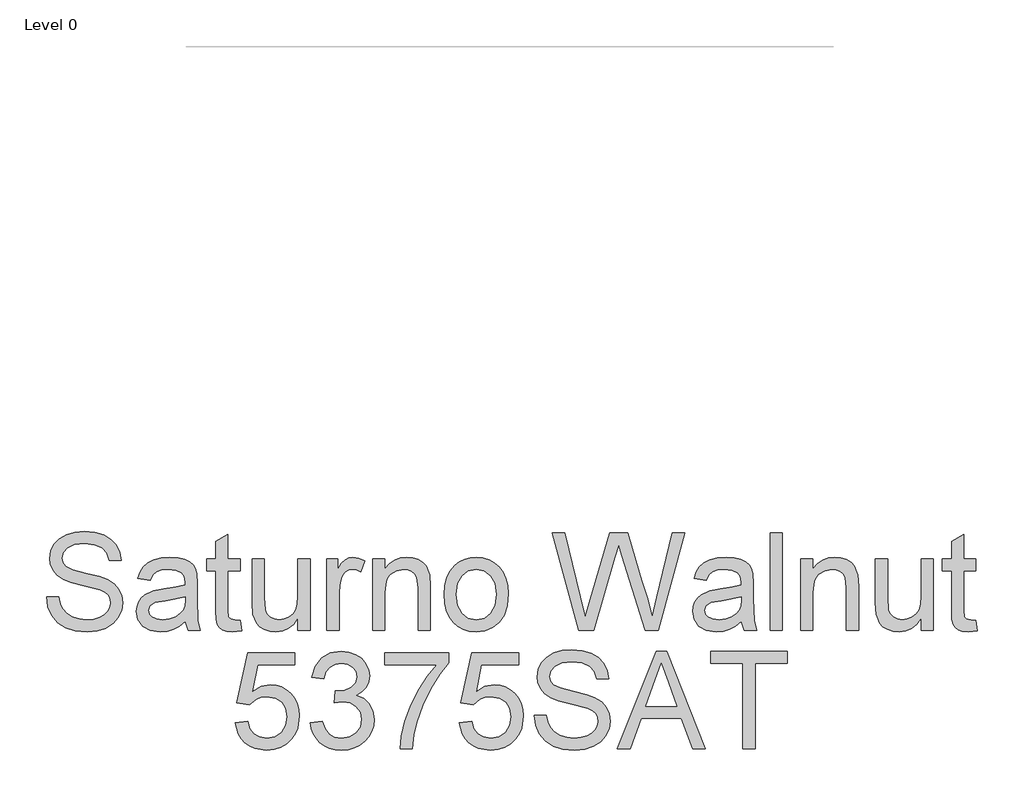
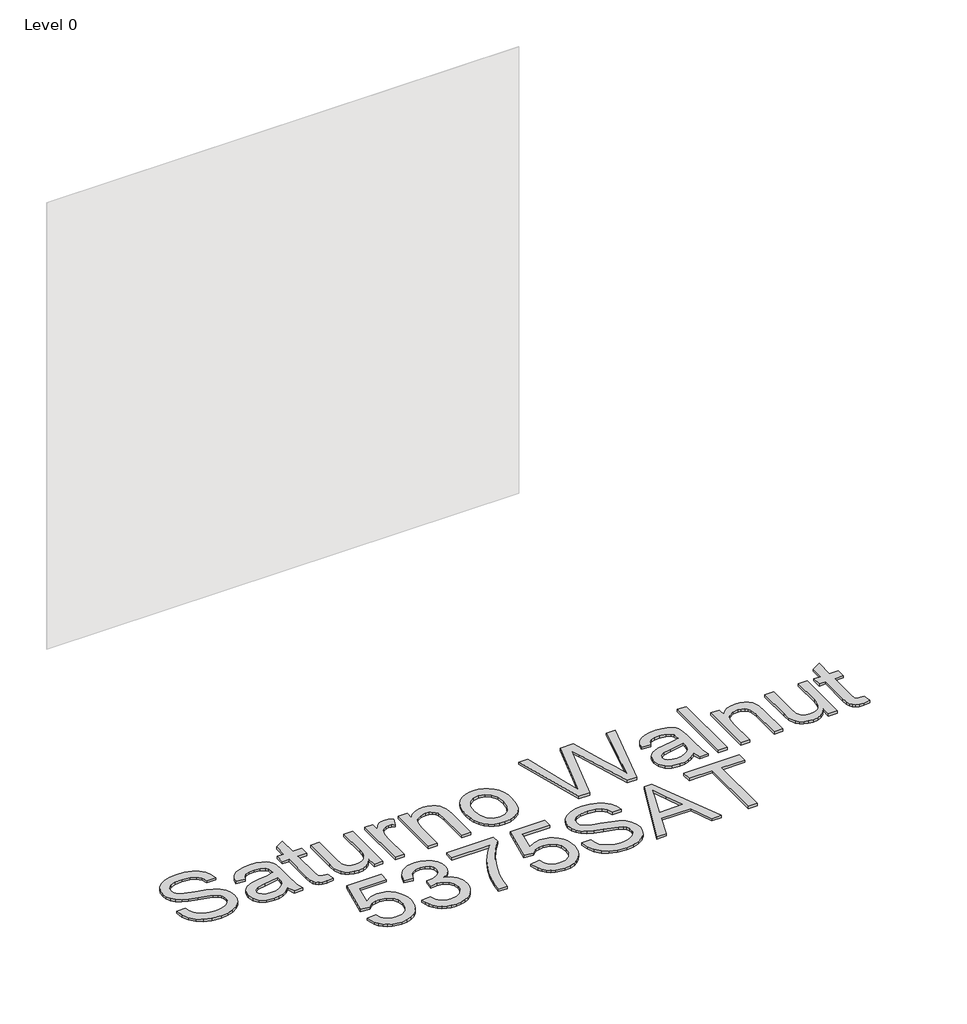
# One storey, part 22 of 43: 1 proxy.
"""IFC4 building model written with IfcOpenShell, lengths in millimetres."""

from ifc_helpers import new_model, si_unit, origin, origin_with_axes, place, context, project, spatial, polyline, outline, extrude, element, save

model = new_model("IFC4")

# Units and contexts
model_context = context("Model", 3, world=origin())
ifc_project = project(units=[si_unit("LENGTHUNIT", "METRE", prefix="MILLI")], contexts=[model_context])

# Site, building, storey
site = spatial("IfcSite", under=ifc_project)
building = spatial("IfcBuilding", under=site)
storey = spatial("IfcBuildingStorey", under=building, Name="Level 0", Elevation=0.0)

# Proxy
placement = place(None, origin())
element("IfcBuildingElementProxy", 1, Name="300mm Arial", ObjectType="300mm Arial", at=placement, inside=storey, context=model_context, shape_type="SweptSolid", body=[
    extrude(outline(polyline([(4121.8395241, -26900.2649241), (4159.5106404, -26900.2649241), (4163.8332538, -26921.1698185), (4171.6507462, -26937.9728286), (4183.8460343, -26951.308551), (4201.302035, -26961.8115819), (4222.6391907, -26968.6265959), (4246.477944, -26970.8982672), (4267.4656119, -26969.1784189), (4285.8413175, -26964.0188739), (4300.7313413, -26955.8518936), (4311.2619634, -26945.1097394), (4317.5251543, -26932.7764955), (4319.6128847, -26919.8362463), (4318.0493862, -26907.2270909), (4313.3588907, -26896.3285868), (4303.8307471, -26887.0303694), (4287.7543039, -26879.222074), (4232.9030984, -26864.837888), (4196.8966481, -26855.3189414), (4173.8580382, -26846.2598472), (4155.1052535, -26833.5863125), (4141.8155164, -26818.2272392), (4133.8968565, -26800.5137211), (4131.2573031, -26780.7768521), (4134.5222558, -26758.7131294), (4144.317114, -26738.1393289), (4160.3843601, -26720.7017223), (4182.4664769, -26708.0465817), (4208.9723746, -26700.3486509), (4238.3109637, -26697.782674), (4270.0959681, -26700.4682126), (4297.907847, -26708.5248283), (4320.7533189, -26721.7869742), (4337.6391024, -26740.0891034), (4348.3260744, -26762.2907818), (4352.5751114, -26787.2515752), (4314.9039951, -26787.2515752), (4307.9878136, -26764.7739853), (4293.5668394, -26748.5503893), (4271.0340672, -26738.7279401), (4239.7824917, -26735.4537903), (4207.7951522, -26738.6911519), (4185.8509912, -26748.4032365), (4173.1590624, -26762.695452), (4168.9284194, -26779.6732061), (4171.9266577, -26794.1493626), (4180.9213725, -26805.7928278), (4202.1849518, -26816.2038882), (4242.4312421, -26826.8356779), (4283.9651193, -26836.9340387), (4309.0914596, -26845.7448125), (4330.5665711, -26859.4116286), (4345.5485653, -26876.2790181), (4354.3501421, -26896.1630399), (4357.284001, -26918.8797531), (4353.9086837, -26942.102304), (4343.7827318, -26963.9452975), (4327.3200125, -26982.7440675), (4304.9343931, -26996.8339479), (4278.0146281, -27005.6355246), (4247.949472, -27008.5693835), (4211.0417108, -27005.4055984), (4180.6638551, -26995.9142429), (4156.4664169, -26980.0585289), (4138.0999082, -26957.8016682), (4126.3092903, -26930.6887651), (4121.8395241, -26900.2649241)])), origin_with_axes(), (0.0, 0.0, 1.0), 10.0),
    extrude(outline(polyline([(4550.348472, -26975.6071568), (4532.3498454, -26991.0398064), (4513.8177899, -27001.1381672), (4494.3292412, -27006.7115794), (4473.4611351, -27008.5693835), (4441.9796333, -27004.0996173), (4418.7570824, -26990.6903186), (4404.4372757, -26970.3280501), (4399.6640068, -26944.9993748), (4401.4666286, -26929.3827841), (4406.8744939, -26915.2009331), (4415.2162182, -26903.0608273), (4425.8204167, -26893.5694718), (4452.1975557, -26881.2086368), (4484.7919005, -26875.5432541), (4523.3091454, -26869.5835657), (4550.1277428, -26862.5938078), (4550.348472, -26854.2060983), (4547.754904, -26837.3938912), (4539.9741998, -26826.3942195), (4522.5733814, -26818.2272392), (4498.3299579, -26815.5049125), (4475.8891562, -26817.3167313), (4460.2173832, -26822.7521878), (4449.5304113, -26832.8045633), (4442.0440127, -26848.4671392), (4404.3728964, -26843.7582497), (4410.9119988, -26823.156858), (4420.6700687, -26806.9700502), (4434.5576141, -26794.590821), (4453.4851427, -26785.4121652), (4476.6341173, -26779.7283884), (4503.1860003, -26777.8337961), (4528.6526314, -26779.5076592), (4548.8401559, -26784.5292485), (4564.0612734, -26792.0800264), (4574.6286837, -26801.3414556), (4581.6368357, -26812.7917827), (4586.1801784, -26826.9092543), (4588.0195883, -26859.8714811), (4588.0195883, -26906.7396473), (4589.9325747, -26972.1858542), (4597.4373674, -27003.860494), (4559.7662511, -27003.860494), (4550.348472, -26975.6071568)]), holes=[polyline([(4550.348472, -26900.2649241), (4489.5743664, -26911.8164188), (4457.1639627, -26917.9232599), (4442.4854711, -26927.8560738), (4437.3351231, -26942.3506244), (4440.1402233, -26953.5526311), (4448.555524, -26962.7312869), (4462.397084, -26968.8565221), (4481.4809625, -26970.8982672), (4501.7144723, -26968.64499), (4519.5935372, -26961.8851583), (4534.0880879, -26951.9247533), (4544.1680545, -26940.069756), (4548.6378208, -26927.8560738), (4550.1277428, -26910.933502), (4550.348472, -26900.2649241)])]), origin_with_axes(), (0.0, 0.0, 1.0), 10.0),
    extrude(outline(polyline([(4719.8684954, -26972.4433716), (4724.577385, -27004.96414), (4696.3976241, -27008.5693835), (4678.3162241, -27007.005885), (4664.8333489, -27002.3153896), (4655.3052053, -26995.0865084), (4649.0879995, -26985.9078526), (4645.666697, -26970.1441091), (4644.5262628, -26943.1599648), (4644.5262628, -26820.213802), (4616.2729256, -26820.213802), (4616.2729256, -26782.5426857), (4644.5262628, -26782.5426857), (4644.5262628, -26728.758338), (4682.1973791, -26706.6118419), (4682.1973791, -26782.5426857), (4719.8684954, -26782.5426857), (4719.8684954, -26820.213802), (4682.1973791, -26820.213802), (4682.1973791, -26942.0563188), (4684.1839419, -26961.4804881), (4690.6218768, -26968.3598814), (4703.4609584, -26970.8982672), (4719.8684954, -26972.4433716)])), origin_with_axes(), (0.0, 0.0, 1.0), 10.0),
    extrude(outline(polyline([(4898.8062979, -27003.860494), (4898.8062979, -26965.8214957), (4885.17627, -26984.5236966), (4869.3021619, -26997.8824116), (4851.1839736, -27005.8976405), (4830.8217052, -27008.5693835), (4812.4735907, -27006.6931853), (4795.394669, -27001.0645908), (4781.0656653, -26992.6033049), (4770.9673045, -26982.2290327), (4759.7469037, -26954.4907302), (4757.5396117, -26919.4683643), (4757.5396117, -26782.5426857), (4795.210728, -26782.5426857), (4795.210728, -26901.7364521), (4797.4915964, -26940.1433324), (4802.9822352, -26952.9548229), (4812.3908172, -26962.6944987), (4825.0919431, -26968.8473251), (4840.4602134, -26970.8982672), (4856.7114006, -26968.8013398), (4871.914124, -26962.5105577), (4884.449703, -26952.605335), (4892.6994568, -26939.6650858), (4897.2795876, -26921.9423707), (4898.8062979, -26897.6897502), (4898.8062979, -26782.5426857), (4936.4774142, -26782.5426857), (4936.4774142, -27003.860494), (4898.8062979, -27003.860494)])), origin_with_axes(), (0.0, 0.0, 1.0), 10.0),
    extrude(outline(polyline([(4988.2751991, -27003.860494), (4988.2751991, -26782.5426857), (5021.2374259, -26782.5426857), (5021.2374259, -26815.2841833), (5033.4143199, -26796.3014723), (5044.6347208, -26785.1178596), (5055.8919098, -26779.654812), (5068.1791685, -26777.8337961), (5086.9411502, -26780.7400639), (5105.9974376, -26789.4588672), (5093.4158733, -26823.2304343), (5080.1721215, -26817.4362929), (5066.9283697, -26815.5049125), (5055.6803777, -26817.3627165), (5045.6280021, -26822.9361288), (5037.5070071, -26831.8020848), (5032.0531565, -26843.5375205), (5027.4730257, -26864.5803706), (5025.9463154, -26887.5362071), (5025.9463154, -27003.860494), (4988.2751991, -27003.860494)])), origin_with_axes(), (0.0, 0.0, 1.0), 10.0),
    extrude(outline(polyline([(5129.5418852, -27003.860494), (5129.5418852, -26782.5426857), (5167.2130016, -26782.5426857), (5167.2130016, -26813.4447733), (5180.3004035, -26797.8649708), (5196.0181618, -26786.7365404), (5214.3662763, -26780.0594822), (5235.3447471, -26777.8337961), (5253.9135908, -26779.6272209), (5270.918936, -26785.0074951), (5285.1007869, -26793.303234), (5295.1991477, -26803.8430532), (5306.4931249, -26831.5445674), (5308.4796877, -26867.964885), (5308.4796877, -27003.860494), (5270.8085714, -27003.860494), (5270.8085714, -26873.0416565), (5266.4675639, -26839.7115477), (5260.4618903, -26829.7879309), (5251.1268847, -26822.0900002), (5239.1615228, -26817.1511844), (5225.2647804, -26815.5049125), (5203.2010577, -26819.2021265), (5184.3930907, -26830.2937687), (5176.8768017, -26839.3482643), (5171.5080238, -26851.7228949), (5167.2130016, -26886.4325611), (5167.2130016, -27003.860494), (5129.5418852, -27003.860494)])), origin_with_axes(), (0.0, 0.0, 1.0), 10.0),
    extrude(outline(polyline([(5350.8596935, -26893.2015898), (5352.8968401, -26864.5389839), (5359.0082797, -26839.8403064), (5369.1940125, -26819.1055575), (5383.4540383, -26802.334737), (5397.8106332, -26791.6155754), (5413.6571501, -26783.9590314), (5430.9935891, -26779.3651049), (5449.8199502, -26777.8337961), (5470.6029837, -26779.698498), (5489.3948559, -26785.2926036), (5506.1955667, -26794.6161129), (5521.0051163, -26807.669026), (5533.0923391, -26824.0098843), (5541.7260697, -26843.1972296), (5546.906308, -26865.2310619), (5548.6330542, -26890.1113811), (5545.5796336, -26928.1687735), (5536.4193719, -26957.1394806), (5521.4189836, -26978.8353213), (5500.845183, -26995.0681143), (5476.4086215, -27005.1940662), (5449.8199502, -27008.5693835), (5428.7334141, -27006.7115794), (5409.766798, -27001.1381672), (5392.9201019, -26991.8491468), (5378.1933258, -26978.8445183), (5366.2348617, -26962.3450108), (5357.6931016, -26942.5713536), (5352.5680456, -26919.5235466), (5350.8596935, -26893.2015898)]), holes=[polyline([(5388.5308099, -26893.1280134), (5392.8902115, -26927.2214773), (5405.9684164, -26951.5108861), (5425.6501032, -26966.0514219), (5449.8199502, -26970.8982672), (5473.8794327, -26966.0238308), (5493.5243313, -26951.4005215), (5506.6025362, -26926.789216), (5510.9619378, -26891.950791), (5506.5749451, -26858.8506085), (5493.4139667, -26834.8922936), (5473.741477, -26820.3517577), (5449.8199502, -26815.5049125), (5425.6501032, -26820.3333636), (5405.9684164, -26834.8187172), (5392.8902115, -26859.0529436), (5388.5308099, -26893.1280134)])]), origin_with_axes(), (0.0, 0.0, 1.0), 10.0),
    extrude(outline(polyline([(5767.3756885, -27003.860494), (5685.1908508, -26702.4915635), (5724.0391895, -26702.4915635), (5771.716696, -26900.5592297), (5786.4319758, -26961.7012173), (5802.1773252, -26907.622564), (5861.9213612, -26702.4915635), (5917.9130009, -26702.4915635), (5961.3230763, -26851.189466), (5979.9195112, -26906.3717653), (5993.6231155, -26961.7012173), (6007.8969369, -26902.3250633), (6056.0159019, -26702.4915635), (6094.8642406, -26702.4915635), (6012.6058265, -27003.860494), (5972.3595362, -27003.860494), (5900.1075123, -26771.359073), (5890.0275457, -26738.9118811), (5878.6967802, -26777.9809489), (5812.8459031, -27003.860494), (5767.3756885, -27003.860494)])), origin_with_axes(), (0.0, 0.0, 1.0), 10.0),
    extrude(outline(polyline([(6269.0931535, -26975.6071568), (6251.0945269, -26991.0398064), (6232.5624714, -27001.1381672), (6213.0739227, -27006.7115794), (6192.2058165, -27008.5693835), (6160.7243148, -27004.0996173), (6137.5017638, -26990.6903186), (6123.1819572, -26970.3280501), (6118.4086883, -26944.9993748), (6120.2113101, -26929.3827841), (6125.6191754, -26915.2009331), (6133.9608996, -26903.0608273), (6144.5650981, -26893.5694718), (6170.9422372, -26881.2086368), (6203.536582, -26875.5432541), (6242.0538269, -26869.5835657), (6268.8724243, -26862.5938078), (6269.0931535, -26854.2060983), (6266.4995854, -26837.3938912), (6258.7188812, -26826.3942195), (6241.3180629, -26818.2272392), (6217.0746394, -26815.5049125), (6194.6338377, -26817.3167313), (6178.9620647, -26822.7521878), (6168.2750927, -26832.8045633), (6160.7886941, -26848.4671392), (6123.1175778, -26843.7582497), (6129.6566803, -26823.156858), (6139.4147502, -26806.9700502), (6153.3022955, -26794.590821), (6172.2298242, -26785.4121652), (6195.3787987, -26779.7283884), (6221.9306817, -26777.8337961), (6247.3973128, -26779.5076592), (6267.5848373, -26784.5292485), (6282.8059549, -26792.0800264), (6293.3733652, -26801.3414556), (6300.3815172, -26812.7917827), (6304.9248598, -26826.9092543), (6306.7642698, -26859.8714811), (6306.7642698, -26906.7396473), (6308.6772562, -26972.1858542), (6316.1820489, -27003.860494), (6278.5109326, -27003.860494), (6269.0931535, -26975.6071568)]), holes=[polyline([(6269.0931535, -26900.2649241), (6208.3190479, -26911.8164188), (6175.9086441, -26917.9232599), (6161.2301525, -26927.8560738), (6156.0798046, -26942.3506244), (6158.8849048, -26953.5526311), (6167.3002054, -26962.7312869), (6181.1417655, -26968.8565221), (6200.225644, -26970.8982672), (6220.4591537, -26968.64499), (6238.3382187, -26961.8851583), (6252.8327693, -26951.9247533), (6262.912736, -26940.069756), (6267.3825022, -26927.8560738), (6268.8724243, -26910.933502), (6269.0931535, -26900.2649241)])]), origin_with_axes(), (0.0, 0.0, 1.0), 10.0),
    extrude(outline(polyline([(6358.5620547, -27003.860494), (6358.5620547, -26702.4915635), (6396.233171, -26702.4915635), (6396.233171, -27003.860494), (6358.5620547, -27003.860494)])), origin_with_axes(), (0.0, 0.0, 1.0), 10.0),
    extrude(outline(polyline([(6452.7398455, -27003.860494), (6452.7398455, -26782.5426857), (6490.4109618, -26782.5426857), (6490.4109618, -26813.4447733), (6503.4983638, -26797.8649708), (6519.216122, -26786.7365404), (6537.5642365, -26780.0594822), (6558.5427073, -26777.8337961), (6577.111551, -26779.6272209), (6594.1168962, -26785.0074951), (6608.2987472, -26793.303234), (6618.3971079, -26803.8430532), (6629.6910852, -26831.5445674), (6631.677648, -26867.964885), (6631.677648, -27003.860494), (6594.0065316, -27003.860494), (6594.0065316, -26873.0416565), (6589.6655241, -26839.7115477), (6583.6598505, -26829.7879309), (6574.3248449, -26822.0900002), (6562.359483, -26817.1511844), (6548.4627406, -26815.5049125), (6526.399018, -26819.2021265), (6507.591051, -26830.2937687), (6500.074762, -26839.3482643), (6494.7059841, -26851.7228949), (6490.4109618, -26886.4325611), (6490.4109618, -27003.860494), (6452.7398455, -27003.860494)])), origin_with_axes(), (0.0, 0.0, 1.0), 10.0),
    extrude(outline(polyline([(6824.742119, -27003.860494), (6824.742119, -26965.8214957), (6811.1120911, -26984.5236966), (6795.237983, -26997.8824116), (6777.1197947, -27005.8976405), (6756.7575263, -27008.5693835), (6738.4094118, -27006.6931853), (6721.3304902, -27001.0645908), (6707.0014865, -26992.6033049), (6696.9031257, -26982.2290327), (6685.6827248, -26954.4907302), (6683.4754329, -26919.4683643), (6683.4754329, -26782.5426857), (6721.1465492, -26782.5426857), (6721.1465492, -26901.7364521), (6723.4274176, -26940.1433324), (6728.9180563, -26952.9548229), (6738.3266384, -26962.6944987), (6751.0277642, -26968.8473251), (6766.3960346, -26970.8982672), (6782.6472217, -26968.8013398), (6797.8499452, -26962.5105577), (6810.3855242, -26952.605335), (6818.6352779, -26939.6650858), (6823.2154087, -26921.9423707), (6824.742119, -26897.6897502), (6824.742119, -26782.5426857), (6862.4132353, -26782.5426857), (6862.4132353, -27003.860494), (6824.742119, -27003.860494)])), origin_with_axes(), (0.0, 0.0, 1.0), 10.0),
    extrude(outline(polyline([(6994.2621424, -26972.4433716), (6998.9710319, -27004.96414), (6970.7912711, -27008.5693835), (6952.709871, -27007.005885), (6939.2269959, -27002.3153896), (6929.6988522, -26995.0865084), (6923.4816465, -26985.9078526), (6920.060344, -26970.1441091), (6918.9199098, -26943.1599648), (6918.9199098, -26820.213802), (6890.6665726, -26820.213802), (6890.6665726, -26782.5426857), (6918.9199098, -26782.5426857), (6918.9199098, -26728.758338), (6956.5910261, -26706.6118419), (6956.5910261, -26782.5426857), (6994.2621424, -26782.5426857), (6994.2621424, -26820.213802), (6956.5910261, -26820.213802), (6956.5910261, -26942.0563188), (6958.5775889, -26961.4804881), (6965.0155238, -26968.3598814), (6977.8546054, -26970.8982672), (6994.2621424, -26972.4433716)])), origin_with_axes(), (0.0, 0.0, 1.0), 10.0),
    extrude(outline(polyline([(4705.7418268, -27289.7338254), (4743.4129431, -27285.0249358), (4750.3291246, -27307.6404815), (4762.3956541, -27323.8364863), (4779.5573491, -27333.5761621), (4801.7590275, -27336.8227207), (4828.761566, -27332.3069693), (4848.9950757, -27318.7597148), (4861.6318223, -27297.7444558), (4865.8440711, -27270.8246908), (4861.8985367, -27245.4776213), (4850.0619335, -27226.0902402), (4830.242291, -27213.7845875), (4802.3476387, -27209.6827032), (4784.0731006, -27211.3197781), (4769.2750474, -27216.2310027), (4748.1218326, -27233.2271509), (4710.4507163, -27228.5182614), (4743.4129431, -27073.1249066), (4889.3885188, -27073.1249066), (4889.3885188, -27110.7960229), (4773.8735723, -27110.7960229), (4757.7603409, -27193.790201), (4784.6709089, -27177.4562404), (4812.8690638, -27172.0115869), (4831.214879, -27173.6992456), (4848.0661737, -27178.7622215), (4863.4229477, -27187.2005148), (4877.2852012, -27199.0141254), (4888.7608201, -27213.4810848), (4896.9576908, -27229.8794248), (4901.8758133, -27248.2091452), (4903.5151874, -27268.470246), (4897.6106814, -27306.1413624), (4890.2300489, -27322.9351754), (4879.8971633, -27338.3678251), (4864.2437844, -27354.1729553), (4845.9784434, -27365.4623341), (4825.1011401, -27372.2359613), (4801.6118747, -27374.4938371), (4764.6121431, -27368.6904986), (4748.9334723, -27361.4363255), (4735.1355982, -27351.2804832), (4723.6553807, -27338.7288093), (4714.9296796, -27324.2871418), (4705.7418268, -27289.7338254)])), origin_with_axes(), (0.0, 0.0, 1.0), 10.0),
    extrude(outline(polyline([(4936.4774142, -27289.7338254), (4974.1485305, -27285.0249358), (4982.5822252, -27308.6981422), (4994.9338632, -27324.6826149), (5011.8104497, -27333.7876943), (5033.8189901, -27336.8227207), (5059.6443062, -27332.6472601), (5079.5835103, -27320.1208782), (5092.3306214, -27301.4324728), (5096.5796585, -27278.7709419), (5092.3674096, -27257.2590422), (5079.7306631, -27239.8122386), (5060.6007994, -27228.2515469), (5036.9091989, -27224.397983), (5010.4952716, -27228.5182614), (5014.6891264, -27190.8471451), (5020.7223911, -27191.2886035), (5043.2919515, -27188.5846708), (5063.4702789, -27180.4728728), (5077.7073121, -27166.7508744), (5082.4529899, -27147.2163404), (5079.0132932, -27130.9467592), (5068.6942032, -27117.7489926), (5052.9488539, -27109.0025982), (5033.2303789, -27106.0871334), (5013.4751158, -27109.0301893), (4997.3250962, -27117.8593572), (4985.5344782, -27132.574637), (4978.85742, -27153.1760288), (4941.1863037, -27148.4671392), (4952.2779459, -27114.6403898), (4972.0148149, -27089.3852908), (4999.0173534, -27073.6583355), (5031.9060037, -27068.4160171), (5055.5884072, -27071.0003881), (5077.3394301, -27078.7535011), (5095.6783476, -27090.9855775), (5109.1244345, -27107.0068384), (5117.3741883, -27125.4653175), (5120.1241062, -27145.0090485), (5117.512144, -27163.2192072), (5109.6762575, -27179.7371088), (5096.7268113, -27193.8085951), (5078.7741699, -27204.6795081), (5102.3554058, -27214.2076518), (5119.8298006, -27230.4312477), (5130.6455312, -27252.4673793), (5134.2507748, -27279.4331295), (5132.448153, -27298.5445992), (5127.0402877, -27316.1477526), (5118.0271788, -27332.2425899), (5105.4088264, -27346.829111), (5090.0359575, -27358.9324287), (5072.7592993, -27367.5776555), (5053.5788518, -27372.7647917), (5032.4946149, -27374.4938371), (5013.4383276, -27373.0177105), (4996.0742974, -27368.589331), (4980.4025244, -27361.2086985), (4966.4230086, -27350.875813), (4954.7013685, -27338.1976797), (4945.8032228, -27323.781304), (4939.7285713, -27307.6266859), (4936.4774142, -27289.7338254)])), origin_with_axes(), (0.0, 0.0, 1.0), 10.0),
    extrude(outline(polyline([(5167.2130016, -27110.7960229), (5167.2130016, -27073.1249066), (5364.9863622, -27073.1249066), (5364.9863622, -27103.5855358), (5336.7974043, -27139.2608923), (5308.8843579, -27184.6299393), (5284.2638554, -27235.5540045), (5265.9525291, -27287.8944154), (5256.9762084, -27327.0554538), (5251.9730132, -27369.7849475), (5214.3018969, -27369.7849475), (5218.37619, -27330.9550029), (5229.2746941, -27284.8042066), (5246.7031037, -27235.8850983), (5270.367113, -27188.7502177), (5297.9950508, -27146.1402856), (5327.3152459, -27110.7960229), (5167.2130016, -27110.7960229)])), origin_with_axes(), (0.0, 0.0, 1.0), 10.0),
    extrude(outline(polyline([(5397.9485889, -27289.7338254), (5435.6197052, -27285.0249358), (5442.5358867, -27307.6404815), (5454.6024162, -27323.8364863), (5471.7641113, -27333.5761621), (5493.9657897, -27336.8227207), (5520.9683281, -27332.3069693), (5541.2018379, -27318.7597148), (5553.8385844, -27297.7444558), (5558.0508332, -27270.8246908), (5554.1052988, -27245.4776213), (5542.2686956, -27226.0902402), (5522.4490531, -27213.7845875), (5494.5544009, -27209.6827032), (5476.2798628, -27211.3197781), (5461.4818095, -27216.2310027), (5440.3285948, -27233.2271509), (5402.6574785, -27228.5182614), (5435.6197052, -27073.1249066), (5581.5952809, -27073.1249066), (5581.5952809, -27110.7960229), (5466.0803344, -27110.7960229), (5449.967103, -27193.790201), (5476.877671, -27177.4562404), (5505.0758259, -27172.0115869), (5523.4216412, -27173.6992456), (5540.2729358, -27178.7622215), (5555.6297098, -27187.2005148), (5569.4919633, -27199.0141254), (5580.9675823, -27213.4810848), (5589.164453, -27229.8794248), (5594.0825754, -27248.2091452), (5595.7219495, -27268.470246), (5589.8174435, -27306.1413624), (5582.436811, -27322.9351754), (5572.1039254, -27338.3678251), (5556.4505466, -27354.1729553), (5538.1852055, -27365.4623341), (5517.3079023, -27372.2359613), (5493.8186369, -27374.4938371), (5456.8189052, -27368.6904986), (5441.1402344, -27361.4363255), (5427.3423603, -27351.2804832), (5415.8621428, -27338.7288093), (5407.1364418, -27324.2871418), (5397.9485889, -27289.7338254)])), origin_with_axes(), (0.0, 0.0, 1.0), 10.0),
    extrude(outline(polyline([(5628.6841763, -27266.1893777), (5666.3552926, -27266.1893777), (5670.6779061, -27287.0942721), (5678.4953985, -27303.8972822), (5690.6906866, -27317.2330045), (5708.1466873, -27327.7360355), (5729.483843, -27334.5510494), (5753.3225963, -27336.8227207), (5774.3102641, -27335.1028724), (5792.6859698, -27329.9433274), (5807.5759935, -27321.7763471), (5818.1066156, -27311.0341929), (5824.3698066, -27298.700949), (5826.4575369, -27285.7606998), (5824.8940384, -27273.1515444), (5820.203543, -27262.2530403), (5810.6753993, -27252.9548229), (5794.5989561, -27245.1465276), (5739.7477506, -27230.7623415), (5703.7413004, -27221.2433949), (5680.7026904, -27212.1843008), (5661.9499057, -27199.510766), (5648.6601686, -27184.1516928), (5640.7415087, -27166.4381747), (5638.1019554, -27146.7013056), (5641.3669081, -27124.637583), (5651.1617662, -27104.0637824), (5667.2290123, -27086.6261758), (5689.3111291, -27073.9710352), (5715.8170269, -27066.2731044), (5745.155616, -27063.7071275), (5776.9406204, -27066.3926661), (5804.7524992, -27074.4492818), (5827.5979711, -27087.7114277), (5844.4837547, -27106.013557), (5855.1707266, -27128.2152354), (5859.4197637, -27153.1760288), (5821.7486474, -27153.1760288), (5814.8324659, -27130.6984389), (5800.4114917, -27114.4748429), (5777.8787194, -27104.6523936), (5746.627144, -27101.3782438), (5714.6398045, -27104.6156054), (5692.6956435, -27114.3276901), (5680.0037146, -27128.6199056), (5675.7730717, -27145.5976597), (5678.7713099, -27160.0738162), (5687.7660247, -27171.7172813), (5709.0296041, -27182.1283418), (5749.2758943, -27192.7601314), (5790.8097716, -27202.8584922), (5815.9361118, -27211.669266), (5837.4112233, -27225.3360821), (5852.3932176, -27242.2034716), (5861.1947943, -27262.0874934), (5864.1286532, -27284.8042066), (5860.7533359, -27308.0267576), (5850.627384, -27329.869751), (5834.1646647, -27348.668521), (5811.7790453, -27362.7584014), (5784.8592803, -27371.5599781), (5754.7941243, -27374.4938371), (5717.8863631, -27371.3300519), (5687.5085073, -27361.8386964), (5663.3110691, -27345.9829824), (5644.9445605, -27323.7261217), (5633.1539425, -27296.6132187), (5628.6841763, -27266.1893777)])), origin_with_axes(), (0.0, 0.0, 1.0), 10.0),
    extrude(outline(polyline([(5885.5393853, -27369.7849475), (6005.8367978, -27068.4160171), (6037.9161077, -27068.4160171), (6158.2135202, -27369.7849475), (6118.4086883, -27369.7849475), (6083.9013571, -27275.6071568), (5959.777972, -27275.6071568), (5925.3442172, -27369.7849475), (5885.5393853, -27369.7849475)]), holes=[polyline([(5973.610335, -27237.9360404), (6070.1425705, -27237.9360404), (6042.9928793, -27163.8446066), (6021.8764527, -27106.0871334), (6003.114471, -27157.3698835), (5973.610335, -27237.9360404)])]), origin_with_axes(), (0.0, 0.0, 1.0), 10.0),
    extrude(outline(polyline([(6273.802043, -27369.7849475), (6273.802043, -27106.0871334), (6174.9153627, -27106.0871334), (6174.9153627, -27068.4160171), (6410.3598397, -27068.4160171), (6410.3598397, -27106.0871334), (6311.4731594, -27106.0871334), (6311.4731594, -27369.7849475), (6273.802043, -27369.7849475)])), origin_with_axes(), (0.0, 0.0, 1.0), 10.0),
])

save(model, "model.ifc")
